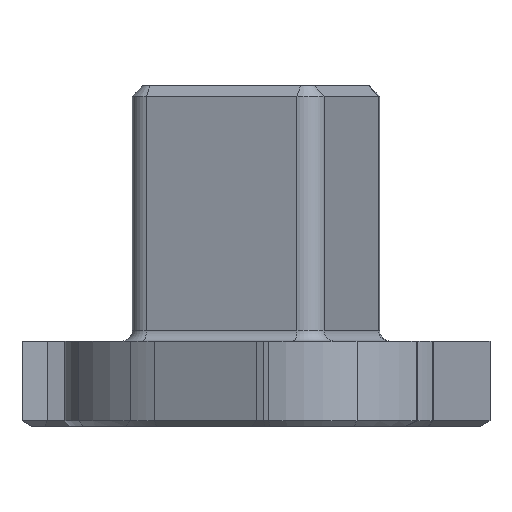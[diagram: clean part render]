
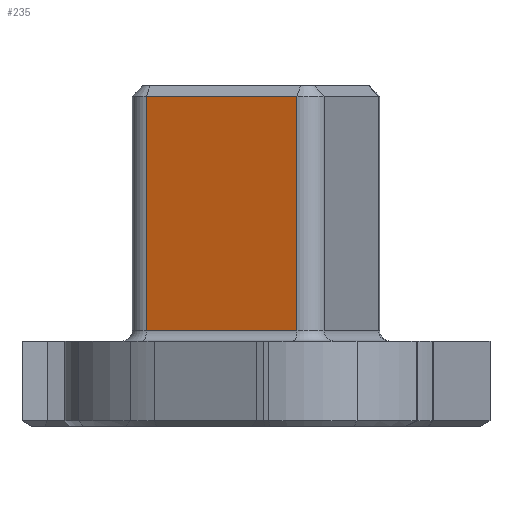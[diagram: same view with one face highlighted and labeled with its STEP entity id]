
A CAD part, left-side view. The second image highlights one B-rep face of the part: STEP entity #235.
In plain terms, the highlighted planar face has unit normal (-0.941, 0.339, 0).
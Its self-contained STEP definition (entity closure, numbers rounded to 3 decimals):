
#235 = ADVANCED_FACE( '', ( #620 ), #621, .T. );
#620 = FACE_OUTER_BOUND( '', #1157, .T. );
#621 = PLANE( '', #1158 );
#1157 = EDGE_LOOP( '', ( #1841, #1842, #1843, #1844 ) );
#1158 = AXIS2_PLACEMENT_3D( '', #1845, #1846, #1847 );
#1841 = ORIENTED_EDGE( '', *, *, #3290, .T. );
#1842 = ORIENTED_EDGE( '', *, *, #3291, .T. );
#1843 = ORIENTED_EDGE( '', *, *, #3292, .T. );
#1844 = ORIENTED_EDGE( '', *, *, #3293, .T. );
#1845 = CARTESIAN_POINT( '', ( -6.096, -2.863, 14. ) );
#1846 = DIRECTION( '', ( -0.941, 0.339, 0. ) );
#1847 = DIRECTION( '', ( -0.339, -0.941, 0. ) );
#3290 = EDGE_CURVE( '', #3998, #3979, #3999, .T. );
#3291 = EDGE_CURVE( '', #3979, #4000, #4001, .F. );
#3292 = EDGE_CURVE( '', #4000, #4002, #4003, .F. );
#3293 = EDGE_CURVE( '', #4002, #3998, #4004, .T. );
#3979 = VERTEX_POINT( '', #4886 );
#3998 = VERTEX_POINT( '', #4906 );
#3999 = LINE( '', #4907, #4908 );
#4000 = VERTEX_POINT( '', #4909 );
#4001 = LINE( '', #4910, #4911 );
#4002 = VERTEX_POINT( '', #4912 );
#4003 = LINE( '', #4913, #4914 );
#4004 = LINE( '', #4915, #4916 );
#4886 = CARTESIAN_POINT( '', ( -3.203, 5.156, 2.5 ) );
#4906 = CARTESIAN_POINT( '', ( -3.203, 5.156, 13.5 ) );
#4907 = CARTESIAN_POINT( '', ( -3.203, 5.156, 14. ) );
#4908 = VECTOR( '', #5955, 1000. );
#4909 = CARTESIAN_POINT( '', ( -5.757, -1.923, 2.5 ) );
#4910 = CARTESIAN_POINT( '', ( -6.096, -2.863, 2.5 ) );
#4911 = VECTOR( '', #5956, 1000. );
#4912 = CARTESIAN_POINT( '', ( -5.757, -1.923, 13.5 ) );
#4913 = CARTESIAN_POINT( '', ( -5.757, -1.923, 14. ) );
#4914 = VECTOR( '', #5957, 1000. );
#4915 = CARTESIAN_POINT( '', ( -3.203, 5.156, 13.5 ) );
#4916 = VECTOR( '', #5958, 1000. );
#5955 = DIRECTION( '', ( 0., 0., -1. ) );
#5956 = DIRECTION( '', ( 0.339, 0.941, 0. ) );
#5957 = DIRECTION( '', ( 0., 0., -1. ) );
#5958 = DIRECTION( '', ( 0.339, 0.941, 0. ) );
